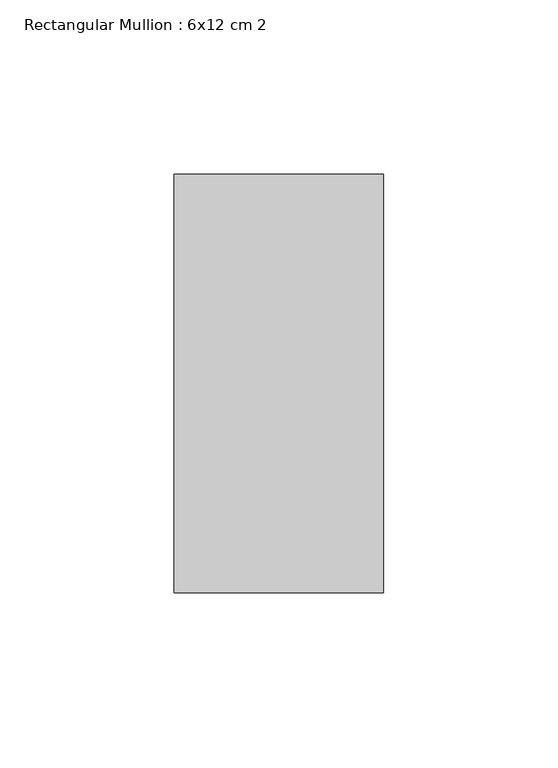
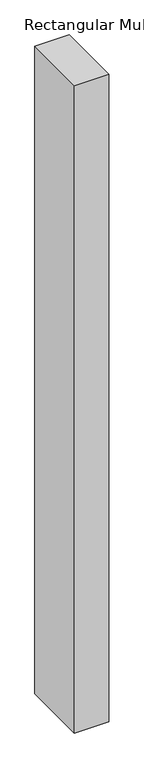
"""IFC4 building model written with IfcOpenShell, lengths in millimetres: member geometry, Rectangular Mullion : 6x12 cm 2."""

from ifc_helpers import new_model, si_unit, frame, origin, place, context, project, spatial, polyline, outline, extrude, source, transform, mapped, element, save


def rectangular_mullion_6x12_cm_2_59bdebd7(model_context):
    return source(origin(), model_context, "Body", "SweptSolid", [
        extrude(outline(polyline([(0.0, 205.0), (0.0, 85.0), (-60.0, 85.0), (-60.0, 205.0), (0.0, 205.0)])), frame((0.0, 0.0, -1200.0), z_axis=(0.0, 0.0, 1.0), x_axis=(1.0, 0.0, 0.0)), (0.0, 0.0, 1.0), 1200.0),
    ])


if __name__ == "__main__":
    model = new_model("IFC4")
    model_context = context("Model", 3, world=origin())
    ifc_project = project(units=[si_unit("LENGTHUNIT", "METRE", prefix="MILLI")], contexts=[model_context])
    site = spatial("IfcSite", under=ifc_project)
    building = spatial("IfcBuilding", under=site)
    placement = place(None, origin())
    rectangular_mullion_6x12_cm_2_shape = rectangular_mullion_6x12_cm_2_59bdebd7(model_context)
    element("IfcMember", 1, ObjectType="Rectangular Mullion : 6x12 cm 2", at=placement, inside=building, context=model_context, shape_type="MappedRepresentation", body=[
        mapped(rectangular_mullion_6x12_cm_2_shape, transform((0.0, 0.0, 0.0), x_axis=(1.0, 0.0, 0.0), y_axis=(0.0, 1.0, 0.0), z_axis=(0.0, 0.0, 1.0))),
    ])
    save(model, "model.ifc")
